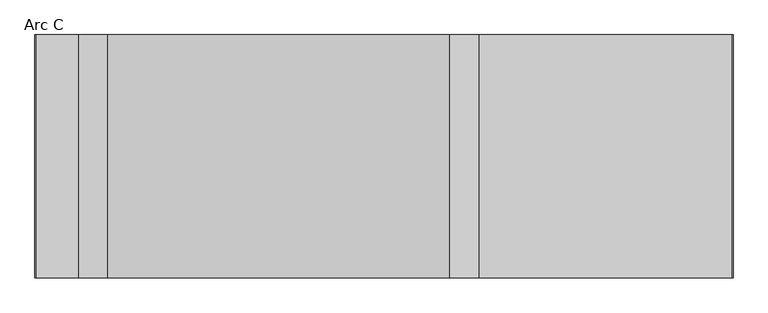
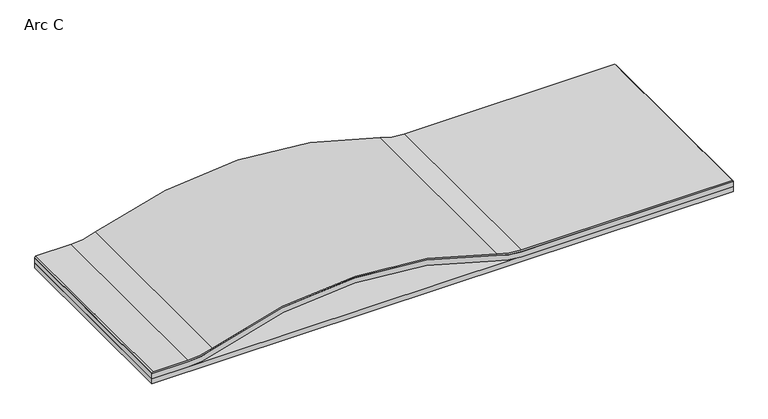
"""IFC4 building model written with IfcOpenShell, lengths in millimetres: proxy geometry, FilzFelt_Arc : Arc C."""

from ifc_helpers import new_model, si_unit, point, frame, frame_2d, origin, origin_with_axes, place, context, project, spatial, polyline, circle_curve, trimmed, segment, composite_curve, outline, extrude, source, transform, mapped, element, save


def arc_c_c8814b8a(model_context):
    return source(origin(), model_context, "Body", "SweptSolid", [
        extrude(outline(composite_curve([segment(trimmed(circle_curve(frame_2d((-667.2995118, -165.1)), 735.3715118), [point((19.193783, -428.725144))], [point((19.1533167, 98.6304962))], True, "CARTESIAN"), True, "CONTINUOUS"), segment(trimmed(circle_curve(frame_2d((146.952, 147.7298789)), 136.906), [point((19.1533167, 98.6304962))], [point((10.046, 147.7298789))], False, "CARTESIAN"), True, "CONTINUOUS"), segment(polyline([(10.046, 147.7298789), (10.046, 546.1), (19.952, 546.1), (19.952, 147.7298789)]), True, "CONTINUOUS"), segment(trimmed(circle_curve(frame_2d((146.952, 147.7298789)), 127.0), [point((19.952, 147.7298789))], [point((28.4003457, 102.1831417))], True, "CARTESIAN"), True, "CONTINUOUS"), segment(trimmed(circle_curve(frame_2d((-667.2995118, -165.1)), 745.2775118), [point((28.4003457, 102.1831417))], [point((28.4003457, -432.3831417))], False, "CARTESIAN"), True, "CONTINUOUS"), segment(trimmed(circle_curve(frame_2d((146.952, -477.9298789)), 127.0), [point((28.4003457, -432.3831417))], [point((19.952, -477.9298789))], True, "CARTESIAN"), True, "CONTINUOUS"), segment(polyline([(19.952, -477.9298789), (19.952, -546.1), (10.094, -546.1), (10.094, -477.8049131)]), True, "CONTINUOUS"), segment(trimmed(circle_curve(frame_2d((147.0, -477.8049131)), 136.906), [point((10.094, -477.8049131))], [point((19.193783, -428.725144))], False, "CARTESIAN"), True, "CONTINUOUS")], self_intersect=False)), frame((0.0, -190.5, 0.0), z_axis=(0.0, 1.0, 0.0), x_axis=(0.0, 0.0, 1.0)), (0.0, 0.0, 1.0), 381.0),
        extrude(outline(composite_curve([segment(trimmed(circle_curve(frame_2d((-667.2995118, -165.1)), 748.3255118), [point((31.4189275, 102.8246428))], [point((31.4189275, -433.0246428))], False, "CARTESIAN"), True, "CONTINUOUS"), segment(trimmed(circle_curve(frame_2d((150.0, -478.4947345)), 127.0), [point((31.4189275, -433.0246428))], [point((23.0, -478.4947345))], True, "CARTESIAN"), True, "CONTINUOUS"), segment(polyline([(23.0, -478.4947345), (23.0, -544.1), (21.0, -546.1), (19.952, -546.1), (19.952, -477.9298789)]), True, "CONTINUOUS"), segment(trimmed(circle_curve(frame_2d((146.952, -477.9298789)), 127.0), [point((19.952, -477.9298789))], [point((28.4003457, -432.3831417))], False, "CARTESIAN"), True, "CONTINUOUS"), segment(trimmed(circle_curve(frame_2d((-667.2995118, -165.1)), 745.2775118), [point((28.4003457, -432.3831417))], [point((28.4003457, 102.1831417))], True, "CARTESIAN"), True, "CONTINUOUS"), segment(trimmed(circle_curve(frame_2d((146.952, 147.7298789)), 127.0), [point((28.4003457, 102.1831417))], [point((19.952, 147.7298789))], False, "CARTESIAN"), True, "CONTINUOUS"), segment(polyline([(19.952, 147.7298789), (19.952, 546.1), (21.0, 546.1), (23.0, 544.1), (23.0, 148.2947345)]), True, "CONTINUOUS"), segment(trimmed(circle_curve(frame_2d((150.0, 148.2947345)), 127.0), [point((23.0, 148.2947345))], [point((31.4189275, 102.8246428))], True, "CARTESIAN"), True, "CONTINUOUS")], self_intersect=False)), frame((0.0, -190.5, 0.0), z_axis=(0.0, 1.0, 0.0), x_axis=(0.0, 0.0, 1.0)), (0.0, 0.0, 1.0), 381.0),
        extrude(outline(polyline([(546.1, 190.5), (546.1, -190.5), (-546.1, -190.5), (-546.1, 190.5), (546.1, 190.5)])), origin_with_axes(), (0.0, 0.0, 1.0), 10.0),
    ])


if __name__ == "__main__":
    model = new_model("IFC4")
    model_context = context("Model", 3, world=origin())
    ifc_project = project(units=[si_unit("LENGTHUNIT", "METRE", prefix="MILLI")], contexts=[model_context])
    site = spatial("IfcSite", under=ifc_project)
    building = spatial("IfcBuilding", under=site)
    placement = place(None, origin())
    arc_c_shape = arc_c_c8814b8a(model_context)
    element("IfcBuildingElementProxy", 1, Name="FilzFelt_Arc : Arc C", ObjectType="FilzFelt_Arc : Arc C", at=placement, inside=building, context=model_context, shape_type="MappedRepresentation", body=[
        mapped(arc_c_shape, transform((0.0, 0.0, 0.0), x_axis=(1.0, 0.0, 0.0), y_axis=(0.0, 1.0, 0.0), z_axis=(0.0, 0.0, 1.0))),
    ])
    save(model, "model.ifc")
